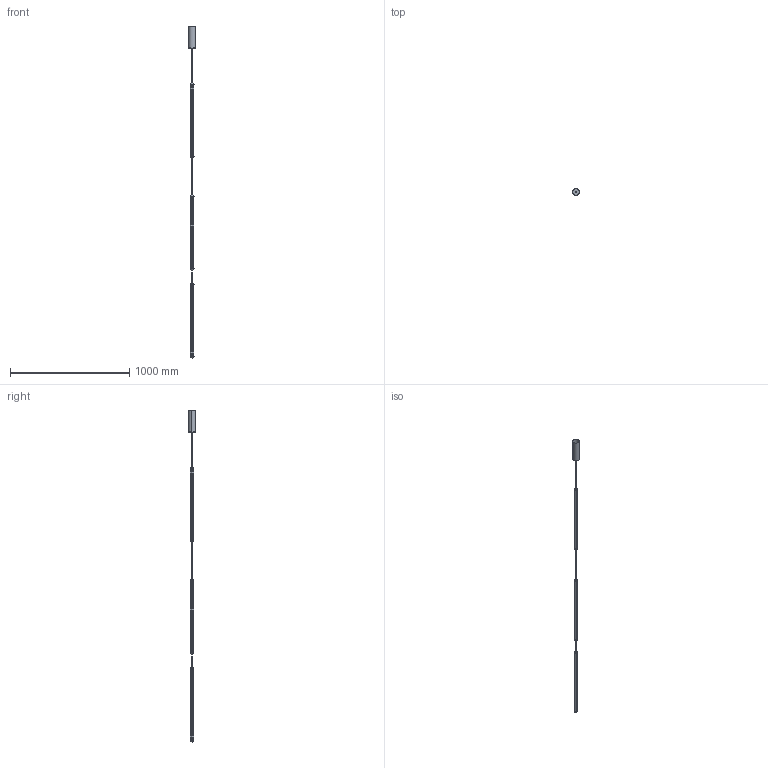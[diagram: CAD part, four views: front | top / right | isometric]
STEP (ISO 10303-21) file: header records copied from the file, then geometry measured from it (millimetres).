
FILE_DESCRIPTION(/* description */ (''),/* implementation_level */ '2;1');
FILE_NAME(/* name */ '64642-111_3d',/* time_stamp */ '2026-05-26T11:17:13+02:00',/* author */ (''),/* organization */ (''),/* preprocessor_version */ 'ST-DEVELOPER v19.2',/* originating_system */ 'Rhino 8.30',/* authorisation */ '');
FILE_SCHEMA (('CONFIG_CONTROL_DESIGN'));
Length unit declared in the file: millimetre
Products named in the file (3): Document; Block 11; Block 09
Bounding box: 55 x 55 x 2786.47 mm (x, y, z)
Volume: 697138.8 mm3; surface area: 379164.1 mm2
Topology: 6 solids, 131 shells, 276 faces, 1128 edges, 974 vertices
Faces by surface type: cylinder 159, plane 105, bspline 12
Entity records: 8723 total; most frequent: CARTESIAN_POINT 3493, ORIENTED_EDGE 1022, DIRECTION 693, EDGE_CURVE 612, VERTEX_POINT 470, AXIS2_PLACEMENT_3D 439, B_SPLINE_CURVE_WITH_KNOTS 344, TRIMMED_CURVE 241
